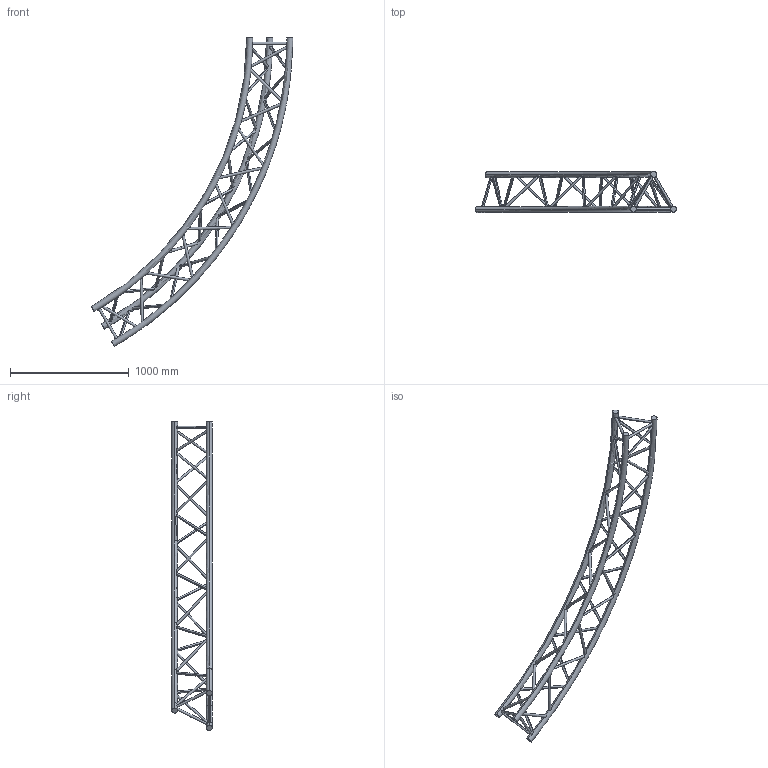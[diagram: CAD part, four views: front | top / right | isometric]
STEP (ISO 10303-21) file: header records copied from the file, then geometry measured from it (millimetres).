
FILE_DESCRIPTION (( 'STEP AP203' ), '1' );
FILE_NAME ('SXC39600PH.STEP', '2009-10-21T11:27:47', ( 'CEDIA' ), ( 'CEDIA INDUSTRIE' ), 'SwSTEP 2.0', 'SolidWorks 2009', '' );
FILE_SCHEMA (( 'CONFIG_CONTROL_DESIGN' ));
Length unit declared in the file: millimetre
Products named in the file (1): SXC39600PH
Bounding box: 1693.5 x 341.85 x 2598.08 mm (x, y, z)
Volume: 21547060.5 mm3; surface area: 2216780.9 mm2
Topology: 1 solids, 1 shells, 90 faces, 278 edges, 168 vertices
Faces by surface type: cylinder 78, torus 6, plane 6
Entity records: 10579 total; most frequent: CARTESIAN_POINT 8193, ORIENTED_EDGE 556, DIRECTION 348, EDGE_CURVE 278, VERTEX_POINT 168, B_SPLINE_CURVE_WITH_KNOTS 156, EDGE_LOOP 142, AXIS2_PLACEMENT_3D 135
